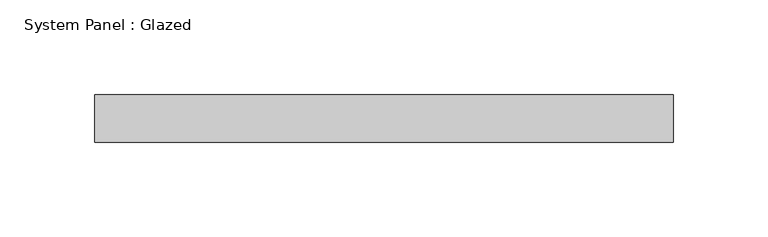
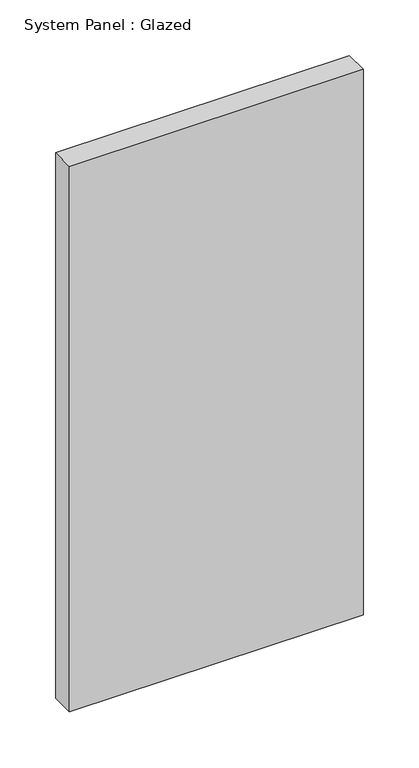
"""IFC4 building model written with IfcOpenShell, lengths in millimetres: plate geometry, System Panel : Glazed."""

from ifc_helpers import new_model, si_unit, frame, origin, place, context, project, spatial, polyline, outline, extrude, source, transform, mapped, element, save


def system_panel_glazed_d4abd326(model_context):
    return source(origin(), model_context, "Body", "SweptSolid", [
        extrude(outline(polyline([(0.0, -152.7876403), (0.0, 152.7876403), (599.9999993, 152.8168158), (599.9999993, -152.8168158), (0.0, -152.7876403)])), frame((0.0, 24.5, 0.0), z_axis=(0.0, 1.0, 0.0), x_axis=(0.0, 0.0, 1.0)), (0.0, 0.0, 1.0), 25.0),
    ])


if __name__ == "__main__":
    model = new_model("IFC4")
    model_context = context("Model", 3, world=origin())
    ifc_project = project(units=[si_unit("LENGTHUNIT", "METRE", prefix="MILLI")], contexts=[model_context])
    site = spatial("IfcSite", under=ifc_project)
    building = spatial("IfcBuilding", under=site)
    placement = place(None, origin())
    system_panel_glazed_shape = system_panel_glazed_d4abd326(model_context)
    element("IfcPlate", 1, ObjectType="System Panel : Glazed", at=placement, inside=building, context=model_context, shape_type="MappedRepresentation", body=[
        mapped(system_panel_glazed_shape, transform((0.0, 0.0, 0.0), x_axis=(1.0, 0.0, 0.0), y_axis=(0.0, 1.0, 0.0), z_axis=(0.0, 0.0, 1.0))),
    ])
    save(model, "model.ifc")
